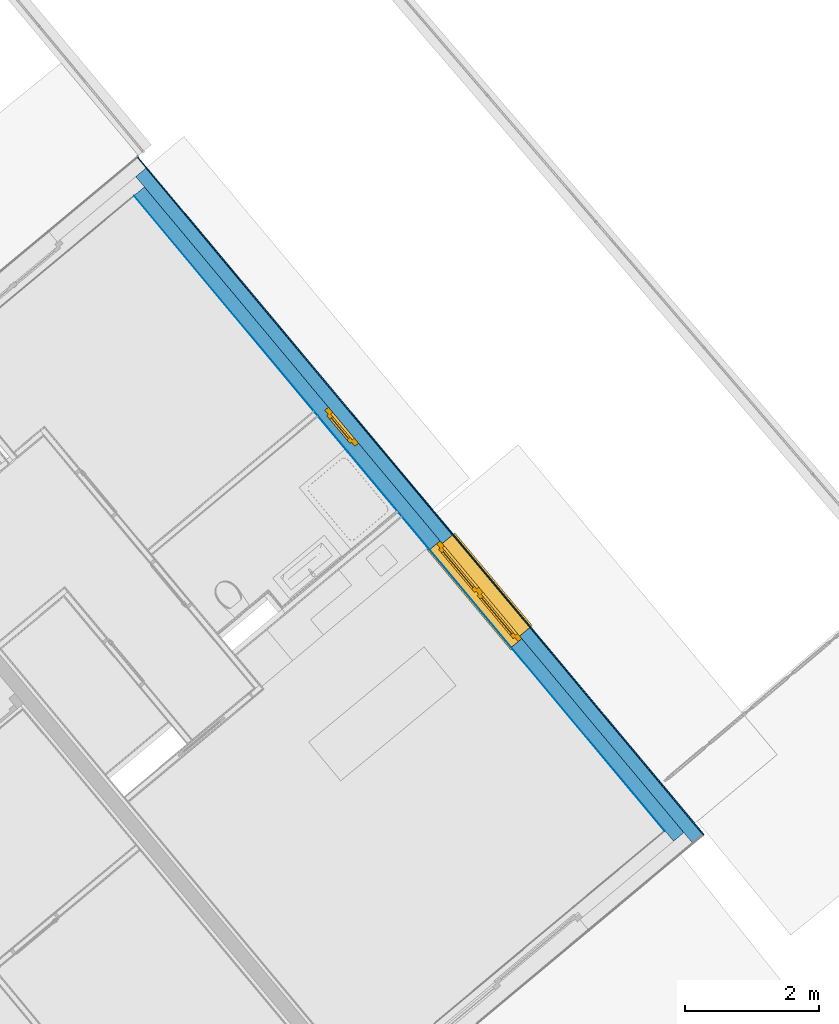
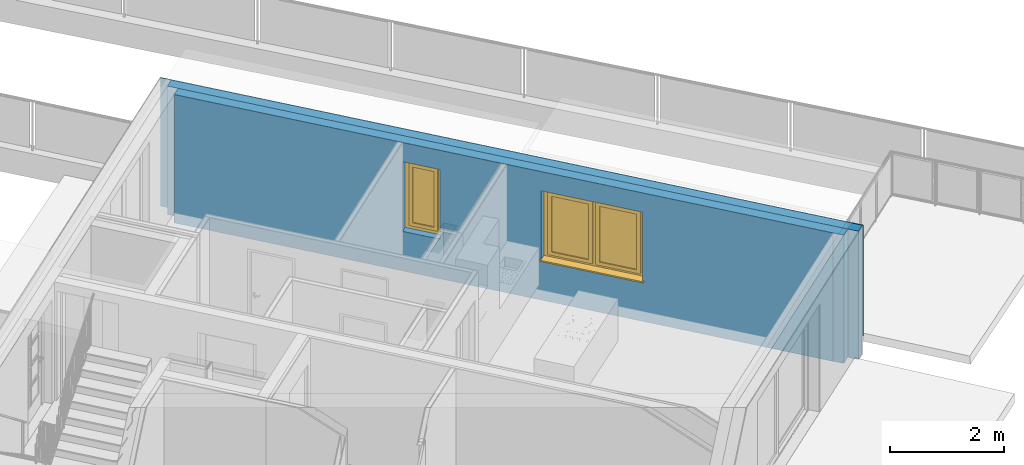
# One storey, part 44 of 75: 4 building element parts, 2 windows, 2 openings, 1 element without a shape of its own.
"""IFC4 building model written with IfcOpenShell, lengths in metres."""

from ifc_helpers import new_model, entity, si_unit, converted_unit, derived_unit, direction, frame, origin_with_axes, place, context, subcontext, project, spatial, polygons, material, type_object, element, fill, aggregate, save


model = new_model("IFC4")

# Units and contexts
model_context = context("Model", 3, precision=1e-05, world=origin_with_axes(), true_north=direction((0.0, 1.0)))
body_context = subcontext(model_context, "Body", "Model", "MODEL_VIEW")
ifc_project = project(units=[si_unit("LENGTHUNIT", "METRE"), si_unit("AREAUNIT", "SQUARE_METRE"), si_unit("VOLUMEUNIT", "CUBIC_METRE"), converted_unit("PLANEANGLEUNIT", "DEGREE", entity("IfcPlaneAngleMeasure", 0.0174532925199), si_unit("PLANEANGLEUNIT", "RADIAN"), dimensions=[0, 0, 0, 0, 0, 0, 0]), converted_unit("TIMEUNIT", "Year", entity("IfcTimeMeasure", 31556926.0), si_unit("TIMEUNIT", "SECOND"), dimensions=[0, 0, 1, 0, 0, 0, 0]), si_unit("MASSUNIT", "GRAM", prefix="KILO"), si_unit("THERMODYNAMICTEMPERATUREUNIT", "DEGREE_CELSIUS"), si_unit("LUMINOUSINTENSITYUNIT", "LUMEN"), si_unit("ENERGYUNIT", "JOULE", prefix="MEGA"), derived_unit("THERMALCONDUCTANCEUNIT", [(si_unit("POWERUNIT", "WATT"), 1), (si_unit("LENGTHUNIT", "METRE"), -1), (si_unit("THERMODYNAMICTEMPERATUREUNIT", "KELVIN"), -1)]), derived_unit("SPECIFICHEATCAPACITYUNIT", [(si_unit("ENERGYUNIT", "JOULE"), 1), (si_unit("MASSUNIT", "GRAM", prefix="KILO"), -1), (si_unit("THERMODYNAMICTEMPERATUREUNIT", "KELVIN"), -1)]), derived_unit("MASSDENSITYUNIT", [(si_unit("MASSUNIT", "GRAM", prefix="KILO"), 1), (si_unit("VOLUMEUNIT", "CUBIC_METRE"), -1)])], contexts=[model_context])

# Site, building, storey, space
site_placement = place(None, frame((-0.00153261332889, -0.00661245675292, 0.0), z_axis=(0.0, 0.0, 1.0), x_axis=(1.0, 0.0, 0.0)))
site = spatial("IfcSite", under=ifc_project, at=site_placement, Name="Gelände", CompositionType="ELEMENT")
building_placement = place(site_placement, origin_with_axes())
building = spatial("IfcBuilding", under=site, at=building_placement, Name="Gebäude", CompositionType="ELEMENT")
storey_placement = place(building_placement, frame((0.0, 0.0, -0.22), z_axis=(0.0, 0.0, 1.0), x_axis=(1.0, 0.0, 0.0)))
storey = spatial("IfcBuildingStorey", under=building, at=storey_placement, Name="EG", CompositionType="ELEMENT", Elevation=-0.22)
space_placement = place(storey_placement, frame((13.4528825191, 20.3252443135, 0.0), z_axis=(0.0, 0.0, 1.0), x_axis=(-0.766923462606, -0.641738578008, 0.0)))
space = spatial("IfcSpace", under=storey, at=space_placement, CompositionType="ELEMENT", PredefinedType="NOTDEFINED")

# Window
window_type_1 = type_object("IfcWindowType", Name="2-Flügelfenster 1+1 26", PartitioningType="DOUBLE_PANEL_VERTICAL", PredefinedType="NOTDEFINED")
wall_placement = place(space_placement, frame((0.0629791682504, -13.190950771, 0.0), z_axis=(0.0, 0.0, 1.0), x_axis=(0.000689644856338, 0.999999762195, 0.0)))
opening_1_placement = place(wall_placement, frame((8.25265654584, 0.0, 0.85), z_axis=(0.0, 0.0, 1.0), x_axis=(1.0, 0.0, 0.0)))
window_1_placement = place(opening_1_placement, frame((0.9, 0.0, 0.0), z_axis=(0.0, 0.0, 1.0), x_axis=(-1.0, 0.0, 0.0)))
window_1 = element("IfcWindow", 1, at=window_1_placement, inside=space, type_object=window_type_1, Name="Fenster-001", OverallHeight=1.5, OverallWidth=1.9, PredefinedType="NOTDEFINED", context=body_context, shape_type="Tessellation", body=[
    polygons([(1.8, 0.215, 0.0), (0.0, 0.215, 0.0), (0.0, 0.215, 0.05), (1.8, 0.215, 0.05), (1.8, -0.013, 0.0), (0.0, -0.013, 0.0), (0.0, -0.013, 0.007), (0.0, -0.02, 0.007), (0.0, -0.02, 0.0), (0.0, -0.03, 0.0), (0.0, -0.03, 0.03), (0.0, 0.205, 0.04), (0.0, 0.205, 0.05), (1.8, 0.205, 0.05), (1.8, 0.205, 0.04), (1.8, -0.03, 0.03), (1.8, -0.03, 0.0), (1.8, -0.02, 0.0), (1.8, -0.02, 0.007), (1.8, -0.013, 0.007)], [[[1, 2, 3, 4]], [[5, 6, 2, 1]], [[2, 6, 7, 8, 9, 10, 11, 12, 13, 3]], [[4, 3, 13, 14]], [[1, 4, 14, 15, 16, 17, 18, 19, 20, 5]], [[20, 7, 6, 5]], [[19, 8, 7, 20]], [[18, 9, 8, 19]], [[17, 10, 9, 18]], [[16, 11, 10, 17]], [[15, 12, 11, 16]], [[14, 13, 12, 15]]], closed=True),
    polygons([(-0.05, 0.285, 0.0), (-0.05, 0.285, 0.025), (-0.05, 0.42, 0.025), (-0.05, 0.42, 0.0), (1.85, 0.285, 0.0), (1.85, 0.285, 0.025), (1.85, 0.42, 0.025), (1.88, 0.42, 0.025), (1.88, 0.45, 0.025), (-0.08, 0.45, 0.025), (-0.08, 0.42, 0.025), (-0.08, 0.42, 0.0), (-0.08, 0.45, 0.0), (1.88, 0.45, 0.0), (1.88, 0.42, 0.0), (1.85, 0.42, 0.0)], [[[1, 2, 3, 4]], [[5, 6, 2, 1]], [[2, 6, 7, 8, 9, 10, 11, 3]], [[4, 3, 11, 12]], [[1, 4, 12, 13, 14, 15, 16, 5]], [[16, 7, 6, 5]], [[15, 8, 7, 16]], [[14, 9, 8, 15]], [[13, 10, 9, 14]], [[12, 11, 10, 13]]], closed=True),
    polygons([(1.85, 0.215, 0.0), (1.75, 0.215, 0.1), (1.75, 0.285, 0.1), (1.85, 0.285, 0.0), (1.85, 0.215, 1.5), (1.75, 0.215, 1.4), (1.75, 0.285, 1.4), (1.85, 0.285, 1.5)], [[[1, 2, 3, 4]], [[1, 5, 6, 2]], [[2, 6, 7, 3]], [[4, 3, 7, 8]], [[5, 1, 4, 8]], [[6, 5, 8, 7]]], closed=True),
    polygons([(-0.05, 0.215, 0.0), (-0.05, 0.215, 1.5), (-0.05, 0.285, 1.5), (-0.05, 0.285, 0.0), (0.05, 0.215, 0.1), (0.05, 0.215, 1.4), (0.05, 0.285, 1.4), (0.05, 0.285, 0.1)], [[[1, 2, 3, 4]], [[1, 5, 6, 2]], [[2, 6, 7, 3]], [[4, 3, 7, 8]], [[5, 1, 4, 8]], [[6, 5, 8, 7]]], closed=True),
    polygons([(1.85, 0.215, 0.0), (-0.05, 0.215, 0.0), (-0.05, 0.285, 0.0), (1.85, 0.285, 0.0), (1.75, 0.215, 0.1), (0.95, 0.215, 0.1), (0.85, 0.215, 0.1), (0.05, 0.215, 0.1), (0.05, 0.285, 0.1), (0.85, 0.285, 0.1), (0.95, 0.285, 0.1), (1.75, 0.285, 0.1)], [[[1, 2, 3, 4]], [[1, 5, 6, 7, 8, 2]], [[2, 8, 9, 3]], [[4, 3, 9, 10, 11, 12]], [[5, 1, 4, 12]], [[6, 5, 12, 11]], [[7, 6, 11, 10]], [[8, 7, 10, 9]]], closed=True),
    polygons([(1.85, 0.215, 1.5), (1.75, 0.215, 1.4), (1.75, 0.285, 1.4), (1.85, 0.285, 1.5), (-0.05, 0.215, 1.5), (0.05, 0.215, 1.4), (0.85, 0.215, 1.4), (0.95, 0.215, 1.4), (0.95, 0.285, 1.4), (0.85, 0.285, 1.4), (0.05, 0.285, 1.4), (-0.05, 0.285, 1.5)], [[[1, 2, 3, 4]], [[1, 5, 6, 7, 8, 2]], [[2, 8, 9, 3]], [[4, 3, 9, 10, 11, 12]], [[5, 1, 4, 12]], [[6, 5, 12, 11]], [[7, 6, 11, 10]], [[8, 7, 10, 9]]], closed=True),
    polygons([(0.95, 0.215, 0.1), (0.85, 0.215, 0.1), (0.85, 0.285, 0.1), (0.95, 0.285, 0.1), (0.95, 0.215, 1.4), (0.85, 0.215, 1.4), (0.85, 0.285, 1.4), (0.95, 0.285, 1.4)], [[[1, 2, 3, 4]], [[1, 5, 6, 2]], [[2, 6, 7, 3]], [[4, 3, 7, 8]], [[5, 1, 4, 8]], [[6, 5, 8, 7]]], closed=True),
    polygons([(1.77, 0.285, 0.08), (1.7, 0.285, 0.15), (1.7, 0.315, 0.15), (1.77, 0.315, 0.08), (1.77, 0.285, 1.42), (1.7, 0.285, 1.35), (1.7, 0.315, 1.35), (1.77, 0.315, 1.42)], [[[1, 2, 3, 4]], [[1, 5, 6, 2]], [[2, 6, 7, 3]], [[4, 3, 7, 8]], [[5, 1, 4, 8]], [[6, 5, 8, 7]]], closed=True),
    polygons([(0.93, 0.285, 0.08), (0.93, 0.315, 0.08), (1.0, 0.315, 0.15), (1.0, 0.285, 0.15), (0.93, 0.285, 1.42), (0.93, 0.315, 1.42), (1.0, 0.315, 1.35), (1.0, 0.285, 1.35)], [[[1, 2, 3, 4]], [[5, 6, 2, 1]], [[2, 6, 7, 3]], [[4, 3, 7, 8]], [[1, 4, 8, 5]], [[8, 7, 6, 5]]], closed=True),
    polygons([(1.77, 0.285, 0.08), (0.93, 0.285, 0.08), (0.93, 0.315, 0.08), (1.77, 0.315, 0.08), (1.7, 0.285, 0.15), (1.0, 0.285, 0.15), (1.0, 0.315, 0.15), (1.7, 0.315, 0.15)], [[[1, 2, 3, 4]], [[1, 5, 6, 2]], [[2, 6, 7, 3]], [[4, 3, 7, 8]], [[5, 1, 4, 8]], [[6, 5, 8, 7]]], closed=True),
    polygons([(1.77, 0.285, 1.42), (1.77, 0.315, 1.42), (0.93, 0.315, 1.42), (0.93, 0.285, 1.42), (1.7, 0.285, 1.35), (1.7, 0.315, 1.35), (1.0, 0.315, 1.35), (1.0, 0.285, 1.35)], [[[1, 2, 3, 4]], [[5, 6, 2, 1]], [[2, 6, 7, 3]], [[4, 3, 7, 8]], [[1, 4, 8, 5]], [[8, 7, 6, 5]]], closed=True),
    polygons([(1.75, 0.255, 0.1), (1.7, 0.255, 0.15), (1.7, 0.285, 0.15), (1.75, 0.285, 0.1), (1.75, 0.255, 1.4), (1.7, 0.255, 1.35), (1.7, 0.285, 1.35), (1.75, 0.285, 1.4)], [[[1, 2, 3, 4]], [[1, 5, 6, 2]], [[2, 6, 7, 3]], [[4, 3, 7, 8]], [[5, 1, 4, 8]], [[6, 5, 8, 7]]], closed=True),
    polygons([(0.95, 0.255, 0.1), (0.95, 0.285, 0.1), (1.0, 0.285, 0.15), (1.0, 0.255, 0.15), (0.95, 0.255, 1.4), (0.95, 0.285, 1.4), (1.0, 0.285, 1.35), (1.0, 0.255, 1.35)], [[[1, 2, 3, 4]], [[5, 6, 2, 1]], [[2, 6, 7, 3]], [[4, 3, 7, 8]], [[1, 4, 8, 5]], [[8, 7, 6, 5]]], closed=True),
    polygons([(1.75, 0.255, 0.1), (0.95, 0.255, 0.1), (0.95, 0.285, 0.1), (1.75, 0.285, 0.1), (1.7, 0.255, 0.15), (1.0, 0.255, 0.15), (1.0, 0.285, 0.15), (1.7, 0.285, 0.15)], [[[1, 2, 3, 4]], [[1, 5, 6, 2]], [[2, 6, 7, 3]], [[4, 3, 7, 8]], [[5, 1, 4, 8]], [[6, 5, 8, 7]]], closed=True),
    polygons([(1.75, 0.255, 1.4), (1.75, 0.285, 1.4), (0.95, 0.285, 1.4), (0.95, 0.255, 1.4), (1.7, 0.255, 1.35), (1.7, 0.285, 1.35), (1.0, 0.285, 1.35), (1.0, 0.255, 1.35)], [[[1, 2, 3, 4]], [[5, 6, 2, 1]], [[2, 6, 7, 3]], [[4, 3, 7, 8]], [[1, 4, 8, 5]], [[8, 7, 6, 5]]], closed=True),
    polygons([(1.7, 0.28, 0.15), (1.0, 0.28, 0.15), (1.0, 0.29, 0.15), (1.7, 0.29, 0.15), (1.7, 0.28, 1.35), (1.0, 0.28, 1.35), (1.0, 0.29, 1.35), (1.7, 0.29, 1.35)], [[[1, 2, 3, 4]], [[1, 5, 6, 2]], [[2, 6, 7, 3]], [[4, 3, 7, 8]], [[5, 1, 4, 8]], [[6, 5, 8, 7]]], closed=True),
    polygons([(0.87, 0.285, 0.08), (0.8, 0.285, 0.15), (0.8, 0.315, 0.15), (0.87, 0.315, 0.08), (0.87, 0.285, 1.42), (0.8, 0.285, 1.35), (0.8, 0.315, 1.35), (0.87, 0.315, 1.42)], [[[1, 2, 3, 4]], [[1, 5, 6, 2]], [[2, 6, 7, 3]], [[4, 3, 7, 8]], [[5, 1, 4, 8]], [[6, 5, 8, 7]]], closed=True),
    polygons([(0.03, 0.285, 0.08), (0.03, 0.315, 0.08), (0.1, 0.315, 0.15), (0.1, 0.285, 0.15), (0.03, 0.285, 1.42), (0.03, 0.315, 1.42), (0.1, 0.315, 1.35), (0.1, 0.285, 1.35)], [[[1, 2, 3, 4]], [[5, 6, 2, 1]], [[2, 6, 7, 3]], [[4, 3, 7, 8]], [[1, 4, 8, 5]], [[8, 7, 6, 5]]], closed=True),
    polygons([(0.87, 0.285, 0.08), (0.03, 0.285, 0.08), (0.03, 0.315, 0.08), (0.87, 0.315, 0.08), (0.8, 0.285, 0.15), (0.1, 0.285, 0.15), (0.1, 0.315, 0.15), (0.8, 0.315, 0.15)], [[[1, 2, 3, 4]], [[1, 5, 6, 2]], [[2, 6, 7, 3]], [[4, 3, 7, 8]], [[5, 1, 4, 8]], [[6, 5, 8, 7]]], closed=True),
    polygons([(0.87, 0.285, 1.42), (0.87, 0.315, 1.42), (0.03, 0.315, 1.42), (0.03, 0.285, 1.42), (0.8, 0.285, 1.35), (0.8, 0.315, 1.35), (0.1, 0.315, 1.35), (0.1, 0.285, 1.35)], [[[1, 2, 3, 4]], [[5, 6, 2, 1]], [[2, 6, 7, 3]], [[4, 3, 7, 8]], [[1, 4, 8, 5]], [[8, 7, 6, 5]]], closed=True),
    polygons([(0.85, 0.255, 0.1), (0.8, 0.255, 0.15), (0.8, 0.285, 0.15), (0.85, 0.285, 0.1), (0.85, 0.255, 1.4), (0.8, 0.255, 1.35), (0.8, 0.285, 1.35), (0.85, 0.285, 1.4)], [[[1, 2, 3, 4]], [[1, 5, 6, 2]], [[2, 6, 7, 3]], [[4, 3, 7, 8]], [[5, 1, 4, 8]], [[6, 5, 8, 7]]], closed=True),
    polygons([(0.05, 0.255, 0.1), (0.05, 0.285, 0.1), (0.1, 0.285, 0.15), (0.1, 0.255, 0.15), (0.05, 0.255, 1.4), (0.05, 0.285, 1.4), (0.1, 0.285, 1.35), (0.1, 0.255, 1.35)], [[[1, 2, 3, 4]], [[5, 6, 2, 1]], [[2, 6, 7, 3]], [[4, 3, 7, 8]], [[1, 4, 8, 5]], [[8, 7, 6, 5]]], closed=True),
    polygons([(0.85, 0.255, 0.1), (0.05, 0.255, 0.1), (0.05, 0.285, 0.1), (0.85, 0.285, 0.1), (0.8, 0.255, 0.15), (0.1, 0.255, 0.15), (0.1, 0.285, 0.15), (0.8, 0.285, 0.15)], [[[1, 2, 3, 4]], [[1, 5, 6, 2]], [[2, 6, 7, 3]], [[4, 3, 7, 8]], [[5, 1, 4, 8]], [[6, 5, 8, 7]]], closed=True),
    polygons([(0.85, 0.255, 1.4), (0.85, 0.285, 1.4), (0.05, 0.285, 1.4), (0.05, 0.255, 1.4), (0.8, 0.255, 1.35), (0.8, 0.285, 1.35), (0.1, 0.285, 1.35), (0.1, 0.255, 1.35)], [[[1, 2, 3, 4]], [[5, 6, 2, 1]], [[2, 6, 7, 3]], [[4, 3, 7, 8]], [[1, 4, 8, 5]], [[8, 7, 6, 5]]], closed=True),
    polygons([(0.8, 0.28, 0.15), (0.1, 0.28, 0.15), (0.1, 0.29, 0.15), (0.8, 0.29, 0.15), (0.8, 0.28, 1.35), (0.1, 0.28, 1.35), (0.1, 0.29, 1.35), (0.8, 0.29, 1.35)], [[[1, 2, 3, 4]], [[1, 5, 6, 2]], [[2, 6, 7, 3]], [[4, 3, 7, 8]], [[5, 1, 4, 8]], [[6, 5, 8, 7]]], closed=True),
])

window_type_2 = type_object("IfcWindowType", Name="1-Flügelfenster 26", PartitioningType="SINGLE_PANEL", PredefinedType="NOTDEFINED")
opening_2_placement = place(wall_placement, frame((5.0517483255, 0.0, 0.85), z_axis=(0.0, 0.0, 1.0), x_axis=(1.0, 0.0, 0.0)))
window_2_placement = place(opening_2_placement, frame((0.3, 0.0, 0.0), z_axis=(0.0, 0.0, 1.0), x_axis=(-1.0, 0.0, 0.0)))
window_2 = element("IfcWindow", 2, at=window_2_placement, inside=space, type_object=window_type_2, Name="Fenster-001", OverallHeight=1.5, OverallWidth=0.7, PredefinedType="NOTDEFINED", context=body_context, shape_type="Tessellation", body=[
    polygons([(0.65, 0.215, 0.0), (0.55, 0.215, 0.1), (0.55, 0.285, 0.1), (0.65, 0.285, 0.0), (0.65, 0.215, 1.5), (0.55, 0.215, 1.4), (0.55, 0.285, 1.4), (0.65, 0.285, 1.5)], [[[1, 2, 3, 4]], [[1, 5, 6, 2]], [[2, 6, 7, 3]], [[4, 3, 7, 8]], [[5, 1, 4, 8]], [[6, 5, 8, 7]]], closed=True),
    polygons([(-0.05, 0.215, 0.0), (-0.05, 0.215, 1.5), (-0.05, 0.285, 1.5), (-0.05, 0.285, 0.0), (0.05, 0.215, 0.1), (0.05, 0.215, 1.4), (0.05, 0.285, 1.4), (0.05, 0.285, 0.1)], [[[1, 2, 3, 4]], [[1, 5, 6, 2]], [[2, 6, 7, 3]], [[4, 3, 7, 8]], [[5, 1, 4, 8]], [[6, 5, 8, 7]]], closed=True),
    polygons([(0.65, 0.215, 0.0), (-0.05, 0.215, 0.0), (-0.05, 0.285, 0.0), (0.65, 0.285, 0.0), (0.55, 0.215, 0.1), (0.3, 0.215, 0.1), (0.05, 0.215, 0.1), (0.05, 0.285, 0.1), (0.3, 0.285, 0.1), (0.55, 0.285, 0.1)], [[[1, 2, 3, 4]], [[1, 5, 6, 7, 2]], [[2, 7, 8, 3]], [[4, 3, 8, 9, 10]], [[5, 1, 4, 10]], [[6, 5, 10, 9]], [[7, 6, 9, 8]]], closed=True),
    polygons([(0.65, 0.215, 1.5), (0.55, 0.215, 1.4), (0.55, 0.285, 1.4), (0.65, 0.285, 1.5), (-0.05, 0.215, 1.5), (0.05, 0.215, 1.4), (0.3, 0.215, 1.4), (0.3, 0.285, 1.4), (0.05, 0.285, 1.4), (-0.05, 0.285, 1.5)], [[[1, 2, 3, 4]], [[1, 5, 6, 7, 2]], [[2, 7, 8, 3]], [[4, 3, 8, 9, 10]], [[5, 1, 4, 10]], [[6, 5, 10, 9]], [[7, 6, 9, 8]]], closed=True),
    polygons([(0.57, 0.285, 0.08), (0.5, 0.285, 0.15), (0.5, 0.315, 0.15), (0.57, 0.315, 0.08), (0.57, 0.285, 1.42), (0.5, 0.285, 1.35), (0.5, 0.315, 1.35), (0.57, 0.315, 1.42)], [[[1, 2, 3, 4]], [[1, 5, 6, 2]], [[2, 6, 7, 3]], [[4, 3, 7, 8]], [[5, 1, 4, 8]], [[6, 5, 8, 7]]], closed=True),
    polygons([(0.03, 0.285, 0.08), (0.03, 0.315, 0.08), (0.1, 0.315, 0.15), (0.1, 0.285, 0.15), (0.03, 0.285, 1.42), (0.03, 0.315, 1.42), (0.1, 0.315, 1.35), (0.1, 0.285, 1.35)], [[[1, 2, 3, 4]], [[5, 6, 2, 1]], [[2, 6, 7, 3]], [[4, 3, 7, 8]], [[1, 4, 8, 5]], [[8, 7, 6, 5]]], closed=True),
    polygons([(0.57, 0.285, 0.08), (0.03, 0.285, 0.08), (0.03, 0.315, 0.08), (0.57, 0.315, 0.08), (0.5, 0.285, 0.15), (0.1, 0.285, 0.15), (0.1, 0.315, 0.15), (0.5, 0.315, 0.15)], [[[1, 2, 3, 4]], [[1, 5, 6, 2]], [[2, 6, 7, 3]], [[4, 3, 7, 8]], [[5, 1, 4, 8]], [[6, 5, 8, 7]]], closed=True),
    polygons([(0.57, 0.285, 1.42), (0.57, 0.315, 1.42), (0.03, 0.315, 1.42), (0.03, 0.285, 1.42), (0.5, 0.285, 1.35), (0.5, 0.315, 1.35), (0.1, 0.315, 1.35), (0.1, 0.285, 1.35)], [[[1, 2, 3, 4]], [[5, 6, 2, 1]], [[2, 6, 7, 3]], [[4, 3, 7, 8]], [[1, 4, 8, 5]], [[8, 7, 6, 5]]], closed=True),
    polygons([(0.55, 0.255, 0.1), (0.5, 0.255, 0.15), (0.5, 0.285, 0.15), (0.55, 0.285, 0.1), (0.55, 0.255, 1.4), (0.5, 0.255, 1.35), (0.5, 0.285, 1.35), (0.55, 0.285, 1.4)], [[[1, 2, 3, 4]], [[1, 5, 6, 2]], [[2, 6, 7, 3]], [[4, 3, 7, 8]], [[5, 1, 4, 8]], [[6, 5, 8, 7]]], closed=True),
    polygons([(0.05, 0.255, 0.1), (0.05, 0.285, 0.1), (0.1, 0.285, 0.15), (0.1, 0.255, 0.15), (0.05, 0.255, 1.4), (0.05, 0.285, 1.4), (0.1, 0.285, 1.35), (0.1, 0.255, 1.35)], [[[1, 2, 3, 4]], [[5, 6, 2, 1]], [[2, 6, 7, 3]], [[4, 3, 7, 8]], [[1, 4, 8, 5]], [[8, 7, 6, 5]]], closed=True),
    polygons([(0.55, 0.255, 0.1), (0.05, 0.255, 0.1), (0.05, 0.285, 0.1), (0.55, 0.285, 0.1), (0.5, 0.255, 0.15), (0.1, 0.255, 0.15), (0.1, 0.285, 0.15), (0.5, 0.285, 0.15)], [[[1, 2, 3, 4]], [[1, 5, 6, 2]], [[2, 6, 7, 3]], [[4, 3, 7, 8]], [[5, 1, 4, 8]], [[6, 5, 8, 7]]], closed=True),
    polygons([(0.55, 0.255, 1.4), (0.55, 0.285, 1.4), (0.05, 0.285, 1.4), (0.05, 0.255, 1.4), (0.5, 0.255, 1.35), (0.5, 0.285, 1.35), (0.1, 0.285, 1.35), (0.1, 0.255, 1.35)], [[[1, 2, 3, 4]], [[5, 6, 2, 1]], [[2, 6, 7, 3]], [[4, 3, 7, 8]], [[1, 4, 8, 5]], [[8, 7, 6, 5]]], closed=True),
    polygons([(0.5, 0.28, 0.15), (0.1, 0.28, 0.15), (0.1, 0.29, 0.15), (0.5, 0.29, 0.15), (0.5, 0.28, 1.35), (0.1, 0.28, 1.35), (0.1, 0.29, 1.35), (0.5, 0.29, 1.35)], [[[1, 2, 3, 4]], [[1, 5, 6, 2]], [[2, 6, 7, 3]], [[4, 3, 7, 8]], [[5, 1, 4, 8]], [[6, 5, 8, 7]]], closed=True),
])

# Wall, opening
wall_type = type_object("IfcWallType", Name="AW EG 420", PredefinedType="NOTDEFINED")
wall = element("IfcWall", 3, at=wall_placement, inside=space, type_object=wall_type, Name="Wand-002", PredefinedType="NOTDEFINED")
opening_1 = element("IfcOpeningElement", 4, at=opening_1_placement, cuts=wall, Name="Fenster-001", context=body_context, identifier="Reference", shape_type="Tessellation", body=[
    polygons([(-0.9, -0.215, 1.45), (0.9, -0.215, 1.45), (0.9, 6.4916246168, 1.45), (-0.9, 6.4916246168, 1.45), (0.9, -0.215, 0.0), (-0.9, -0.215, 0.0), (-0.95, -0.215, 0.0), (-0.95, -0.215, 1.5), (0.95, -0.215, 1.5), (0.95, -0.215, 0.0), (0.9, 6.4916246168, 0.0), (-0.9, 6.4916246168, 0.0), (0.95, -6.9116246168, 0.0), (-0.95, -6.9116246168, 0.0), (-0.95, -6.9116246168, 1.5), (0.95, -6.9116246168, 1.5)], [[[1, 2, 3, 4]], [[5, 2, 1, 6, 7, 8, 9, 10]], [[2, 5, 11, 3]], [[3, 11, 12, 4]], [[6, 1, 4, 12]], [[6, 12, 11, 5, 10, 13, 14, 7]], [[8, 7, 14, 15]], [[9, 8, 15, 16]], [[10, 9, 16, 13]], [[15, 14, 13, 16]]], closed=True),
])

fill(opening_1, window_1)

# Opening
opening_2 = element("IfcOpeningElement", 5, at=opening_2_placement, cuts=wall, Name="Fenster-001", context=body_context, identifier="Reference", shape_type="Tessellation", body=[
    polygons([(-0.3, -0.215, 1.45), (0.3, -0.215, 1.45), (0.3, 6.4916246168, 1.45), (-0.3, 6.4916246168, 1.45), (0.3, -0.215, 0.0), (-0.3, -0.215, 0.0), (-0.35, -0.215, 0.0), (-0.35, -0.215, 1.5), (0.35, -0.215, 1.5), (0.35, -0.215, 0.0), (0.3, 6.4916246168, 0.0), (-0.3, 6.4916246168, 0.0), (0.35, -6.9116246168, 0.0), (-0.35, -6.9116246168, 0.0), (-0.35, -6.9116246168, 1.5), (0.35, -6.9116246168, 1.5)], [[[1, 2, 3, 4]], [[5, 2, 1, 6, 7, 8, 9, 10]], [[2, 5, 11, 3]], [[3, 11, 12, 4]], [[6, 1, 4, 12]], [[6, 12, 11, 5, 10, 13, 14, 7]], [[8, 7, 14, 15]], [[9, 8, 15, 16]], [[10, 9, 16, 13]], [[15, 14, 13, 16]]], closed=True),
])

fill(opening_2, window_2)

# Building element part
ifc_material_1 = material(Name="Zementputz")
building_element_part_1_placement = place(wall_placement, origin_with_axes())
building_element_part_1 = element("IfcBuildingElementPart", 6, at=building_element_part_1_placement, material=ifc_material_1, Name="Zementputz", PredefinedType="NOTDEFINED", context=body_context, shape_type="Tessellation", body=[
    polygons([(13.1296371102, -0.015, 0.378851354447), (13.1912023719, -0.015, 0.379043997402), (13.1912023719, -0.015, 2.76), (0.015, -0.015, 2.76), (0.015, -0.015, 0.0), (13.1296371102, -0.015, 0.0), (7.35265654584, -0.015, 2.3), (9.15265654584, -0.015, 2.3), (9.15265654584, -0.015, 0.85), (7.35265654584, -0.015, 0.85), (4.7517483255, -0.015, 0.85), (4.7517483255, -0.015, 2.3), (5.3517483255, -0.015, 2.3), (5.3517483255, -0.015, 0.85), (13.1199764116, -0.0124361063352, 0.379754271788), (13.0593419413, 0.0, 0.384090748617), (13.1911926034, 0.0, 0.384503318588), (13.1911926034, 0.0, 2.76), (0.015, 0.0, 2.76), (0.015, 0.0, 0.0), (13.0593419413, 0.0, 0.0), (13.1199764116, -0.0124361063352, 0.0), (9.15265654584, 0.0, 2.3), (7.35265654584, 0.0, 2.3), (9.15265654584, 0.0, 0.85), (7.35265654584, 0.0, 0.85), (4.7517483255, 0.0, 0.85), (4.7517483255, 0.0, 2.3), (5.3517483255, 0.0, 2.3), (5.3517483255, 0.0, 0.85)], [[[1, 2, 3, 4, 5, 6], [7, 8, 9, 10], [11, 12, 13, 14]], [[15, 16, 17, 2, 1]], [[18, 3, 2, 17]], [[19, 4, 3, 18]], [[19, 20, 5, 4]], [[21, 22, 6, 5, 20]], [[22, 15, 1, 6]], [[23, 8, 7, 24]], [[25, 9, 8, 23]], [[26, 10, 9, 25]], [[24, 7, 10, 26]], [[27, 28, 12, 11]], [[28, 29, 13, 12]], [[29, 30, 14, 13]], [[30, 27, 11, 14]], [[16, 15, 22, 21]], [[16, 21, 20, 19, 18, 17], [25, 23, 24, 26], [27, 30, 29, 28]]], closed=True),
])

ifc_material_2 = material(Name="EPS 1")
building_element_part_2_placement = place(wall_placement, origin_with_axes())
building_element_part_2 = element("IfcBuildingElementPart", 7, at=building_element_part_2_placement, material=ifc_material_2, Name="EPS 1", PredefinedType="NOTDEFINED", context=body_context, shape_type="Tessellation", body=[
    polygons([(0.215, -0.215, 2.76), (0.215, -0.215, 0.0), (13.1763326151, -0.215, 0.0), (13.1763326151, -0.215, 2.76), (7.35265654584, -0.215, 2.3), (9.15265654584, -0.215, 2.3), (9.15265654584, -0.215, 0.85), (7.35265654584, -0.215, 0.85), (4.7517483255, -0.215, 0.85), (4.7517483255, -0.215, 2.3), (5.3517483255, -0.215, 2.3), (5.3517483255, -0.215, 0.85), (0.215, -0.015, 2.76), (0.215, -0.015, 0.0), (13.1296371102, -0.015, 0.0), (13.1762104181, -0.0273602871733, 0.0), (13.1762104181, -0.0273602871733, 0.374498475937), (13.1762023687, -0.015, 0.378997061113), (13.1762023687, -0.015, 2.76), (9.15265654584, -0.015, 2.3), (7.35265654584, -0.015, 2.3), (9.15265654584, -0.015, 0.85), (7.35265654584, -0.015, 0.85), (4.7517483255, -0.015, 0.85), (4.7517483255, -0.015, 2.3), (5.3517483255, -0.015, 2.3), (5.3517483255, -0.015, 0.85), (13.1296371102, -0.015, 0.378851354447)], [[[1, 2, 3, 4], [5, 6, 7, 8], [9, 10, 11, 12]], [[13, 14, 2, 1]], [[14, 15, 16, 3, 2]], [[16, 17, 18, 19, 4, 3]], [[13, 1, 4, 19]], [[20, 6, 5, 21]], [[22, 7, 6, 20]], [[23, 8, 7, 22]], [[21, 5, 8, 23]], [[24, 25, 10, 9]], [[25, 26, 11, 10]], [[26, 27, 12, 11]], [[27, 24, 9, 12]], [[28, 15, 14, 13, 19, 18], [22, 20, 21, 23], [24, 27, 26, 25]], [[15, 28, 17, 16]], [[28, 18, 17]]], closed=True),
])

ifc_material_3 = material(Name="Stahlbeton Wand")
building_element_part_3_placement = place(wall_placement, origin_with_axes())
building_element_part_3 = element("IfcBuildingElementPart", 8, at=building_element_part_3_placement, material=ifc_material_3, Name="Stahlbeton Wand", PredefinedType="NOTDEFINED", context=body_context, shape_type="Tessellation", body=[
    polygons([(0.414999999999, -0.415, 0.0), (12.976462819, -0.415, 0.0), (12.976462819, -0.415, 2.76), (0.414999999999, -0.415, 2.76), (7.30265654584, -0.415, 2.35), (9.20265654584, -0.415, 2.35), (9.20265654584, -0.415, 0.85), (7.30265654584, -0.415, 0.85), (4.7017483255, -0.415, 0.85), (4.7017483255, -0.415, 2.35), (5.4017483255, -0.415, 2.35), (5.4017483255, -0.415, 0.85), (0.415, -0.215, 0.0), (12.9763325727, -0.215, 0.0), (12.9763325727, -0.215, 2.76), (0.415, -0.215, 2.76), (9.20265654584, -0.215, 2.35), (7.30265654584, -0.215, 2.35), (9.20265654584, -0.215, 0.85), (7.30265654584, -0.215, 0.85), (4.7017483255, -0.215, 0.85), (4.7017483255, -0.215, 2.35), (5.4017483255, -0.215, 2.35), (5.4017483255, -0.215, 0.85)], [[[1, 2, 3, 4], [5, 6, 7, 8], [9, 10, 11, 12]], [[13, 14, 2, 1]], [[14, 15, 3, 2]], [[4, 3, 15, 16]], [[13, 1, 4, 16]], [[17, 6, 5, 18]], [[19, 7, 6, 17]], [[20, 8, 7, 19]], [[18, 5, 8, 20]], [[21, 22, 10, 9]], [[22, 23, 11, 10]], [[23, 24, 12, 11]], [[24, 21, 9, 12]], [[16, 15, 14, 13], [19, 17, 18, 20], [21, 24, 23, 22]]], closed=True),
])

building_element_part_4_placement = place(wall_placement, origin_with_axes())
building_element_part_4 = element("IfcBuildingElementPart", 9, at=building_element_part_4_placement, material=ifc_material_1, Name="Zementputz", PredefinedType="NOTDEFINED", context=body_context, shape_type="Tessellation", body=[
    polygons([(0.419999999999, -0.42, 0.0), (12.7764660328, -0.42, 0.0), (12.7764660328, -0.42, 2.76), (0.419999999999, -0.42, 2.76), (7.30265654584, -0.42, 2.35), (9.20265654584, -0.42, 2.35), (9.20265654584, -0.42, 0.85), (7.30265654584, -0.42, 0.85), (4.7017483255, -0.42, 0.85), (4.7017483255, -0.42, 2.35), (5.4017483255, -0.42, 2.35), (5.4017483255, -0.42, 0.85), (0.419999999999, -0.415, 0.0), (12.7764627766, -0.415, 0.0), (12.7764627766, -0.415, 2.76), (0.419999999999, -0.415, 2.76), (9.20265654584, -0.415, 2.35), (7.30265654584, -0.415, 2.35), (9.20265654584, -0.415, 0.85), (7.30265654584, -0.415, 0.85), (4.7017483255, -0.415, 0.85), (4.7017483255, -0.415, 2.35), (5.4017483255, -0.415, 2.35), (5.4017483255, -0.415, 0.85)], [[[1, 2, 3, 4], [5, 6, 7, 8], [9, 10, 11, 12]], [[13, 14, 2, 1]], [[14, 15, 3, 2]], [[4, 3, 15, 16]], [[13, 1, 4, 16]], [[17, 6, 5, 18]], [[19, 7, 6, 17]], [[20, 8, 7, 19]], [[18, 5, 8, 20]], [[21, 22, 10, 9]], [[22, 23, 11, 10]], [[23, 24, 12, 11]], [[24, 21, 9, 12]], [[16, 15, 14, 13], [19, 17, 18, 20], [21, 24, 23, 22]]], closed=True),
])

aggregate(wall, [building_element_part_1, building_element_part_2, building_element_part_3, building_element_part_4])

save(model, "model.ifc")
